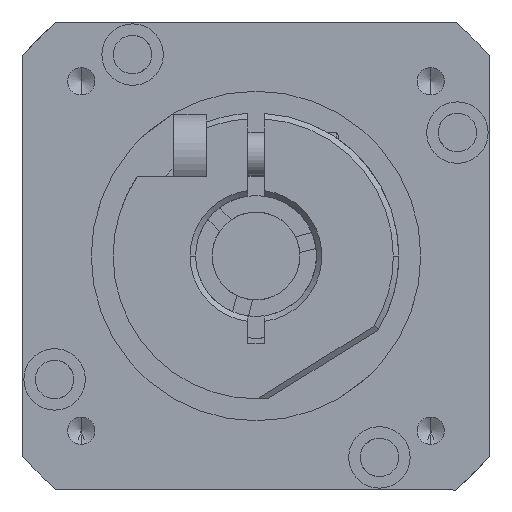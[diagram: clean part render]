
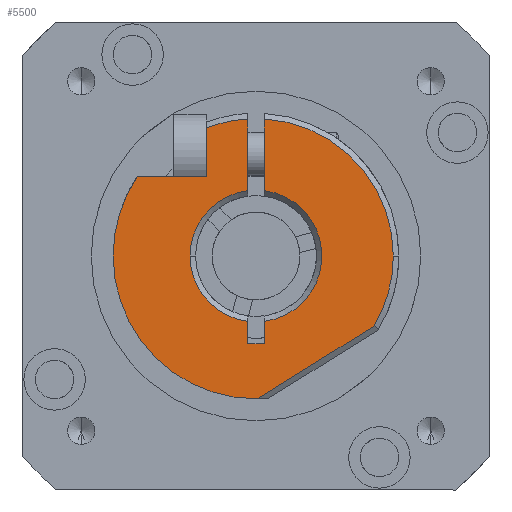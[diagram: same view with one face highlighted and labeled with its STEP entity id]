
A CAD part, left-side view. The second image highlights one B-rep face of the part: STEP entity #5500.
In plain terms, the highlighted planar face has unit normal (-1, 0, 0) as drawn and (0, -1, 0) by its records, which use the part's own axes.
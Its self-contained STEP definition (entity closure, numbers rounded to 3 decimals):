
#72 = CARTESIAN_POINT ( 'NONE',  ( 0., -4., 0. ) ) ;
#73 = ORIENTED_EDGE ( 'NONE', *, *, #1117, .T. ) ;
#137 = EDGE_CURVE ( 'NONE', #5536, #4588, #7934, .T. ) ;
#198 = CARTESIAN_POINT ( 'NONE',  ( 5.5, -4., -0.75 ) ) ;
#211 = DIRECTION ( 'NONE',  ( 0., 1., 0. ) ) ;
#240 = DIRECTION ( 'NONE',  ( -1., 0., 0. ) ) ;
#383 = DIRECTION ( 'NONE',  ( 0., 0., -1. ) ) ;
#539 = AXIS2_PLACEMENT_3D ( 'NONE', #2601, #8800, #2043 ) ;
#758 = CARTESIAN_POINT ( 'NONE',  ( -7.25, -4., -4.5 ) ) ;
#858 = AXIS2_PLACEMENT_3D ( 'NONE', #4896, #1542, #5009 ) ;
#862 = CARTESIAN_POINT ( 'NONE',  ( 5.5, -4., 0.75 ) ) ;
#893 = CARTESIAN_POINT ( 'NONE',  ( 0., -4., 0. ) ) ;
#917 = LINE ( 'NONE', #1722, #7900 ) ;
#1023 = VERTEX_POINT ( 'NONE', #6369 ) ;
#1115 = VECTOR ( 'NONE', #3661, 1000. ) ;
#1117 = EDGE_CURVE ( 'NONE', #6632, #3019, #5591, .T. ) ;
#1200 = EDGE_CURVE ( 'NONE', #4627, #5740, #6943, .T. ) ;
#1380 = CARTESIAN_POINT ( 'NONE',  ( 0., -4., 0. ) ) ;
#1432 = LINE ( 'NONE', #4745, #1115 ) ;
#1476 = EDGE_CURVE ( 'NONE', #2608, #5320, #8111, .T. ) ;
#1529 = VECTOR ( 'NONE', #6292, 1000. ) ;
#1542 = DIRECTION ( 'NONE',  ( 0., -1., 0. ) ) ;
#1715 = CARTESIAN_POINT ( 'NONE',  ( 5.5, -4., 0.75 ) ) ;
#1722 = CARTESIAN_POINT ( 'NONE',  ( 8., -4., -0.75 ) ) ;
#1950 = LINE ( 'NONE', #6981, #4413 ) ;
#2043 = DIRECTION ( 'NONE',  ( 0., 0., -1. ) ) ;
#2171 = LINE ( 'NONE', #198, #1529 ) ;
#2287 = DIRECTION ( 'NONE',  ( 1., 0., 0. ) ) ;
#2293 = DIRECTION ( 'NONE',  ( 0., 0., -1. ) ) ;
#2317 = CARTESIAN_POINT ( 'NONE',  ( 0., -4., 0. ) ) ;
#2342 = ORIENTED_EDGE ( 'NONE', *, *, #2783, .T. ) ;
#2348 = CARTESIAN_POINT ( 'NONE',  ( 8., -4., 0.75 ) ) ;
#2349 = FACE_OUTER_BOUND ( 'NONE', #3353, .T. ) ;
#2367 = ORIENTED_EDGE ( 'NONE', *, *, #8496, .T. ) ;
#2521 = ORIENTED_EDGE ( 'NONE', *, *, #6255, .T. ) ;
#2529 = EDGE_CURVE ( 'NONE', #3019, #5536, #3885, .T. ) ;
#2547 = AXIS2_PLACEMENT_3D ( 'NONE', #1380, #6741, #8185 ) ;
#2601 = CARTESIAN_POINT ( 'NONE',  ( 0., -4., 0. ) ) ;
#2608 = VERTEX_POINT ( 'NONE', #8157 ) ;
#2783 = EDGE_CURVE ( 'NONE', #5484, #7617, #917, .T. ) ;
#2808 = DIRECTION ( 'NONE',  ( 0., 1., 0. ) ) ;
#2841 = DIRECTION ( 'NONE',  ( 0., 0., -1. ) ) ;
#2854 = DIRECTION ( 'NONE',  ( 0., 0., -1. ) ) ;
#3001 = DIRECTION ( 'NONE',  ( 1., 0., 0. ) ) ;
#3019 = VERTEX_POINT ( 'NONE', #8592 ) ;
#3233 = EDGE_CURVE ( 'NONE', #7617, #1023, #2171, .T. ) ;
#3324 = DIRECTION ( 'NONE',  ( 0., -1., 0. ) ) ;
#3353 = EDGE_LOOP ( 'NONE', ( #6407, #2342, #8117, #8482, #6253, #7901, #2367, #5607, #5339, #73, #8444, #6641, #3954, #2521, #6414, #6670 ) ) ;
#3635 = CARTESIAN_POINT ( 'NONE',  ( 0., -4., 0. ) ) ;
#3646 = CARTESIAN_POINT ( 'NONE',  ( 6.367, -4., 10.757 ) ) ;
#3658 = CARTESIAN_POINT ( 'NONE',  ( -7.25, -4., -10.791 ) ) ;
#3661 = DIRECTION ( 'NONE',  ( 0., 0., -1. ) ) ;
#3851 = DIRECTION ( 'NONE',  ( 0., 0., -1. ) ) ;
#3855 = AXIS2_PLACEMENT_3D ( 'NONE', #2317, #5718, #7731 ) ;
#3865 = EDGE_CURVE ( 'NONE', #6356, #4627, #5273, .T. ) ;
#3885 = CIRCLE ( 'NONE', #539, 13. ) ;
#3954 = ORIENTED_EDGE ( 'NONE', *, *, #5387, .T. ) ;
#4052 = DIRECTION ( 'NONE',  ( -0.53, 0., 0.848 ) ) ;
#4090 = LINE ( 'NONE', #862, #5772 ) ;
#4149 = EDGE_CURVE ( 'NONE', #5320, #5484, #4163, .T. ) ;
#4163 = LINE ( 'NONE', #1715, #5213 ) ;
#4376 = DIRECTION ( 'NONE',  ( 0., 0., 1. ) ) ;
#4413 = VECTOR ( 'NONE', #3001, 1000. ) ;
#4511 = CARTESIAN_POINT ( 'NONE',  ( 12.999, -4., 0.144 ) ) ;
#4572 = CIRCLE ( 'NONE', #5496, 12.5 ) ;
#4588 = VERTEX_POINT ( 'NONE', #3646 ) ;
#4612 = CIRCLE ( 'NONE', #858, 12.5 ) ;
#4627 = VERTEX_POINT ( 'NONE', #7742 ) ;
#4638 = AXIS2_PLACEMENT_3D ( 'NONE', #72, #2808, #2841 ) ;
#4745 = CARTESIAN_POINT ( 'NONE',  ( -7.25, -4., 0. ) ) ;
#4757 = CIRCLE ( 'NONE', #2547, 12.5 ) ;
#4772 = VERTEX_POINT ( 'NONE', #5193 ) ;
#4896 = CARTESIAN_POINT ( 'NONE',  ( 0., -4., 0. ) ) ;
#5009 = DIRECTION ( 'NONE',  ( -1., 0., 0. ) ) ;
#5074 = VECTOR ( 'NONE', #4052, 1000. ) ;
#5193 = CARTESIAN_POINT ( 'NONE',  ( -12.477, -4., 0.75 ) ) ;
#5213 = VECTOR ( 'NONE', #7113, 1000. ) ;
#5273 = CIRCLE ( 'NONE', #4638, 6. ) ;
#5320 = VERTEX_POINT ( 'NONE', #8304 ) ;
#5339 = ORIENTED_EDGE ( 'NONE', *, *, #8473, .T. ) ;
#5385 = EDGE_CURVE ( 'NONE', #1023, #6356, #6878, .T. ) ;
#5387 = EDGE_CURVE ( 'NONE', #4588, #6209, #4572, .T. ) ;
#5484 = VERTEX_POINT ( 'NONE', #2348 ) ;
#5496 = AXIS2_PLACEMENT_3D ( 'NONE', #893, #8369, #4376 ) ;
#5500 = ADVANCED_FACE ( 'NONE', ( #2349 ), #7866, .T. ) ;
#5536 = VERTEX_POINT ( 'NONE', #4511 ) ;
#5591 = CIRCLE ( 'NONE', #6951, 13. ) ;
#5607 = ORIENTED_EDGE ( 'NONE', *, *, #8475, .T. ) ;
#5718 = DIRECTION ( 'NONE',  ( 0., 1., 0. ) ) ;
#5740 = VERTEX_POINT ( 'NONE', #6782 ) ;
#5768 = CARTESIAN_POINT ( 'NONE',  ( 5.5, -4., 0. ) ) ;
#5772 = VECTOR ( 'NONE', #2287, 1000. ) ;
#6091 = CARTESIAN_POINT ( 'NONE',  ( 8., -4., -0.75 ) ) ;
#6100 = VECTOR ( 'NONE', #240, 1000. ) ;
#6209 = VERTEX_POINT ( 'NONE', #8658 ) ;
#6253 = ORIENTED_EDGE ( 'NONE', *, *, #3865, .T. ) ;
#6255 = EDGE_CURVE ( 'NONE', #6209, #4772, #4757, .T. ) ;
#6292 = DIRECTION ( 'NONE',  ( -1., 0., 0. ) ) ;
#6301 = CARTESIAN_POINT ( 'NONE',  ( 5.5, -4., -0.75 ) ) ;
#6356 = VERTEX_POINT ( 'NONE', #7410 ) ;
#6369 = CARTESIAN_POINT ( 'NONE',  ( 5.953, -4., -0.75 ) ) ;
#6407 = ORIENTED_EDGE ( 'NONE', *, *, #4149, .T. ) ;
#6414 = ORIENTED_EDGE ( 'NONE', *, *, #8518, .T. ) ;
#6632 = VERTEX_POINT ( 'NONE', #3658 ) ;
#6641 = ORIENTED_EDGE ( 'NONE', *, *, #137, .T. ) ;
#6670 = ORIENTED_EDGE ( 'NONE', *, *, #1476, .T. ) ;
#6689 = AXIS2_PLACEMENT_3D ( 'NONE', #3635, #211, #2293 ) ;
#6741 = DIRECTION ( 'NONE',  ( 0., -1., 0. ) ) ;
#6782 = CARTESIAN_POINT ( 'NONE',  ( -12.477, -4., -0.75 ) ) ;
#6878 = CIRCLE ( 'NONE', #3855, 6. ) ;
#6943 = LINE ( 'NONE', #6301, #6100 ) ;
#6951 = AXIS2_PLACEMENT_3D ( 'NONE', #8770, #3324, #2854 ) ;
#6981 = CARTESIAN_POINT ( 'NONE',  ( 5.5, -4., -4.5 ) ) ;
#7068 = VERTEX_POINT ( 'NONE', #758 ) ;
#7113 = DIRECTION ( 'NONE',  ( 1., 0., 0. ) ) ;
#7397 = CARTESIAN_POINT ( 'NONE',  ( 12.999, -4., 0.144 ) ) ;
#7410 = CARTESIAN_POINT ( 'NONE',  ( 0., -4., -6. ) ) ;
#7478 = CARTESIAN_POINT ( 'NONE',  ( -11.662, -4., -4.5 ) ) ;
#7617 = VERTEX_POINT ( 'NONE', #6091 ) ;
#7731 = DIRECTION ( 'NONE',  ( 0., 0., -1. ) ) ;
#7742 = CARTESIAN_POINT ( 'NONE',  ( -5.953, -4., -0.75 ) ) ;
#7779 = DIRECTION ( 'NONE',  ( 0., -1., 0. ) ) ;
#7866 = PLANE ( 'NONE',  #8403 ) ;
#7900 = VECTOR ( 'NONE', #383, 1000. ) ;
#7901 = ORIENTED_EDGE ( 'NONE', *, *, #1200, .T. ) ;
#7934 = LINE ( 'NONE', #7397, #5074 ) ;
#8111 = CIRCLE ( 'NONE', #6689, 6. ) ;
#8117 = ORIENTED_EDGE ( 'NONE', *, *, #3233, .T. ) ;
#8157 = CARTESIAN_POINT ( 'NONE',  ( -5.953, -4., 0.75 ) ) ;
#8185 = DIRECTION ( 'NONE',  ( 0., 0., 1. ) ) ;
#8304 = CARTESIAN_POINT ( 'NONE',  ( 5.953, -4., 0.75 ) ) ;
#8369 = DIRECTION ( 'NONE',  ( 0., -1., 0. ) ) ;
#8403 = AXIS2_PLACEMENT_3D ( 'NONE', #5768, #7779, #3851 ) ;
#8444 = ORIENTED_EDGE ( 'NONE', *, *, #2529, .T. ) ;
#8448 = VERTEX_POINT ( 'NONE', #7478 ) ;
#8473 = EDGE_CURVE ( 'NONE', #7068, #6632, #1432, .T. ) ;
#8475 = EDGE_CURVE ( 'NONE', #8448, #7068, #1950, .T. ) ;
#8482 = ORIENTED_EDGE ( 'NONE', *, *, #5385, .T. ) ;
#8496 = EDGE_CURVE ( 'NONE', #5740, #8448, #4612, .T. ) ;
#8518 = EDGE_CURVE ( 'NONE', #4772, #2608, #4090, .T. ) ;
#8592 = CARTESIAN_POINT ( 'NONE',  ( 0., -4., -13. ) ) ;
#8658 = CARTESIAN_POINT ( 'NONE',  ( 0., -4., 12.5 ) ) ;
#8770 = CARTESIAN_POINT ( 'NONE',  ( 0., -4., 0. ) ) ;
#8800 = DIRECTION ( 'NONE',  ( 0., -1., 0. ) ) ;
